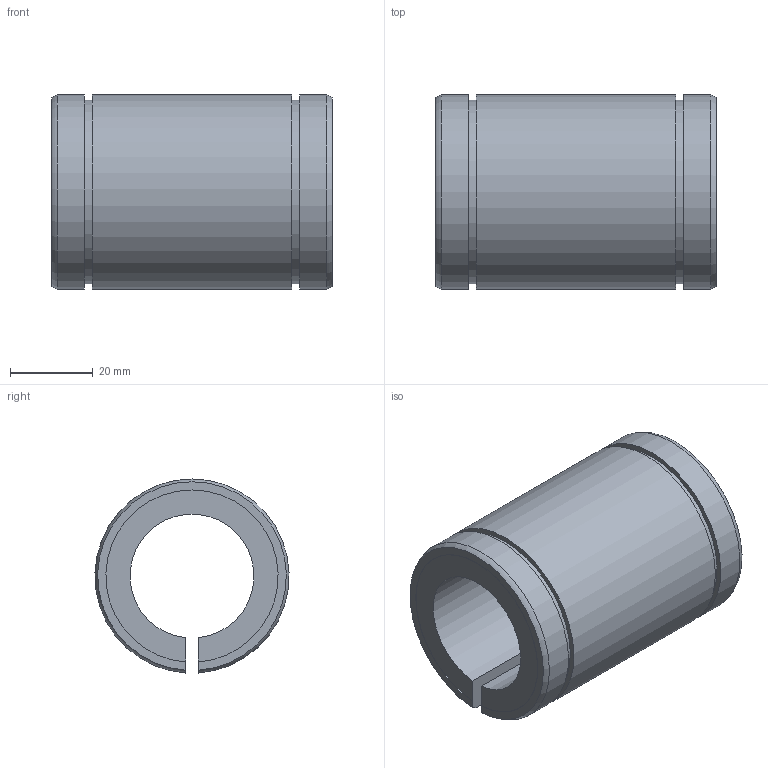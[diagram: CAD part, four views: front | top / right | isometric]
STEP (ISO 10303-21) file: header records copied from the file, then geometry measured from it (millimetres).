
FILE_DESCRIPTION((''),'2;1');
FILE_NAME('D:\製品 (図面)\カタログ用3D\リニアベアリング関連\STEP形式\LE-ADJ\LE30-ADJ.stp','2010-06-03T09:08:24',('Tsuchiya'),(''),'Autodesk Inventor 10','Autodesk Inventor 10','');
FILE_SCHEMA(('AUTOMOTIVE_DESIGN { 1 0 10303 214 1 1 1 1 }'));
Length unit declared in the file: millimetre
Products named in the file (1): LE30-ADJ
Bounding box: 68 x 46.98 x 46.95 mm (x, y, z)
Volume: 67281.1 mm3; surface area: 19723.8 mm2
Topology: 1 solids, 1 shells, 20 faces, 54 edges, 36 vertices
Faces by surface type: plane 10, cylinder 8, torus 2
Entity records: 693 total; most frequent: CARTESIAN_POINT 153, DIRECTION 110, ORIENTED_EDGE 108, EDGE_CURVE 54, AXIS2_PLACEMENT_3D 39, VERTEX_POINT 36, VECTOR 32, LINE 32
